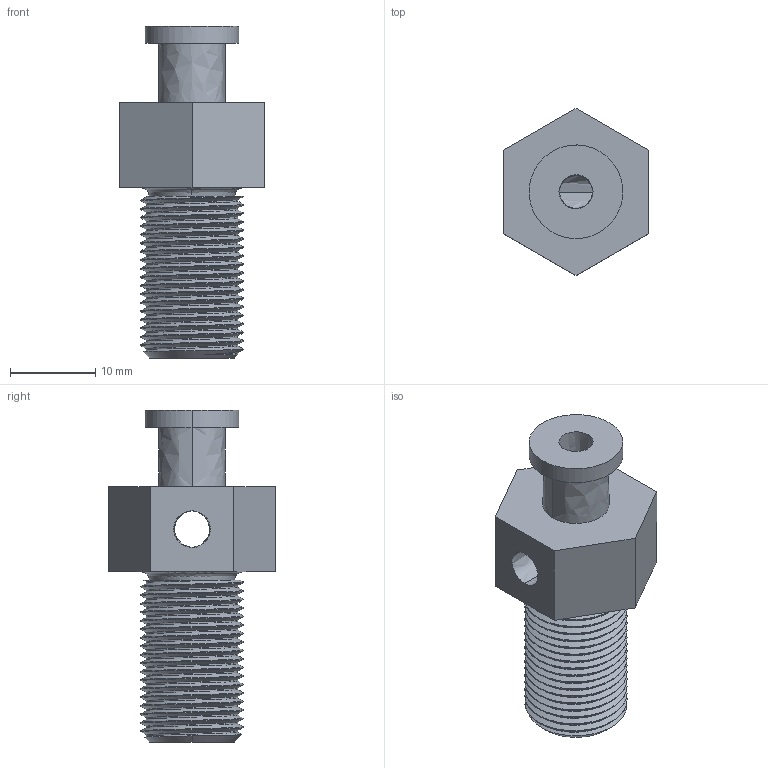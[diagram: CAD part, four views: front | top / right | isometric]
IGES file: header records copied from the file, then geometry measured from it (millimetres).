
Start section:  PTC IGES file: 210698_vfilk-s-m12.igs
Global section: file name: 210698_vfilk-s-m12.igs; native system: Pro/ENGINEER by Parametric Technology Corporation; preprocessor: 2004090; author: KAIHATSU01; organization: Unknown; date: 061017.110923; units: millimetre
Bounding box: 17 x 19.63 x 39 mm (x, y, z)
Volume: 4623.5 mm3; surface area: 2934.8 mm2
Topology: 1 solids, 1 shells, 77 faces, 196 edges, 124 vertices
Faces by surface type: bspline 77
